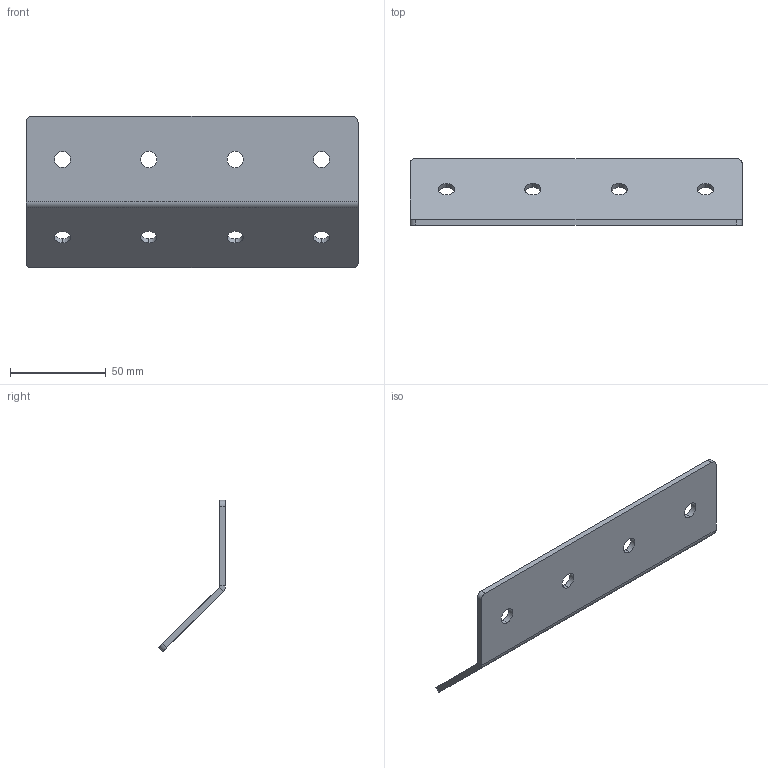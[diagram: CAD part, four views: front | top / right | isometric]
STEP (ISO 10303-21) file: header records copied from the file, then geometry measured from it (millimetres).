
FILE_DESCRIPTION (( 'STEP AP214' ), '1' );
FILE_NAME ('8445180s.STEP', '2026-09-11T07:42:16', ( '' ), ( '' ), 'SwSTEP 2.0', 'SolidWorks 2022', '' );
FILE_SCHEMA (( 'AUTOMOTIVE_DESIGN' ));
Length unit declared in the file: millimetre
Products named in the file (1): 8445180s
Bounding box: 173 x 34.82 x 78.94 mm (x, y, z)
Volume: 45918.5 mm3; surface area: 32822.6 mm2
Topology: 1 solids, 1 shells, 34 faces, 88 edges, 56 vertices
Faces by surface type: cylinder 22, plane 12
Entity records: 1118 total; most frequent: DIRECTION 202, CARTESIAN_POINT 179, ORIENTED_EDGE 176, EDGE_CURVE 88, AXIS2_PLACEMENT_3D 79, VERTEX_POINT 56, EDGE_LOOP 50, CIRCLE 44
